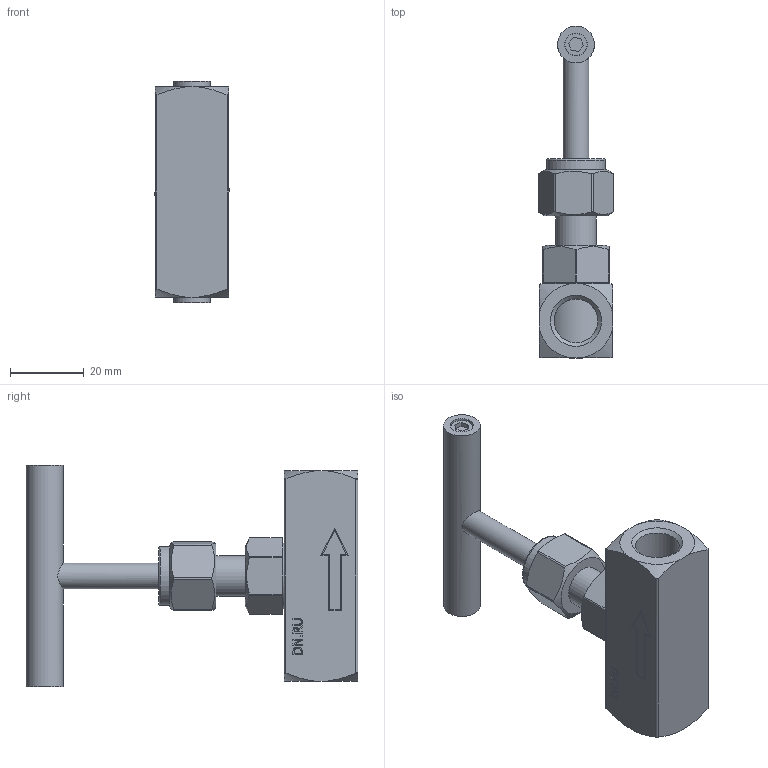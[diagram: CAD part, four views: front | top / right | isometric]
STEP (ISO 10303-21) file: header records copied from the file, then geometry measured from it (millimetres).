
FILE_DESCRIPTION(('STEP AP214'), '1');
FILE_NAME('VN3131M-T-Ht 孰囡囗 桡铍囹 DN.ru 捏8 畜400', '', ('UNSPECIFIED'), ('UNSPECIFIED'), 'C3D Converter', 'C3D Toolkit', '');
FILE_SCHEMA(('AUTOMOTIVE_DESIGN { 1 0 10303 214 3 1 1}'));
Length unit declared in the file: millimetre
Products named in the file (1): VN3131M-T-Ht
Bounding box: 20.58 x 90 x 60 mm (x, y, z)
Volume: 31583.1 mm3; surface area: 11725.9 mm2
Topology: 1 solids, 1 shells, 174 faces, 442 edges, 293 vertices
Faces by surface type: plane 108, cylinder 29, bspline 23, cone 13, torus 1
Full cylindrical faces by diameter (mm): 6 x2, 6.2 x2, 7 x1, 10 x1, 11 x1, 11.89 x2, 16 x1, 18 x1
Entity records: 12393 total; most frequent: CARTESIAN_POINT 7037, ORIENTED_EDGE 850, DIRECTION 660, EDGE_CURVE 425, VERTEX_POINT 293, LINE 264, VECTOR 264, EDGE_LOOP 214
